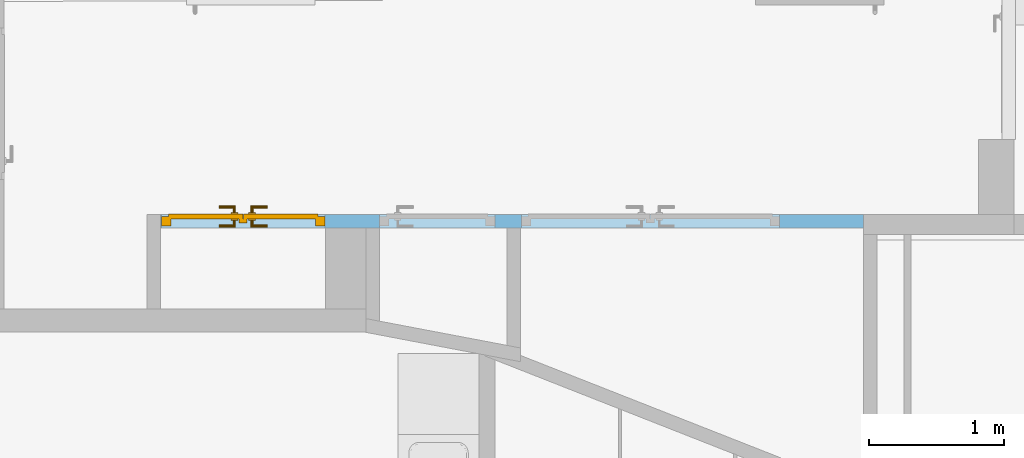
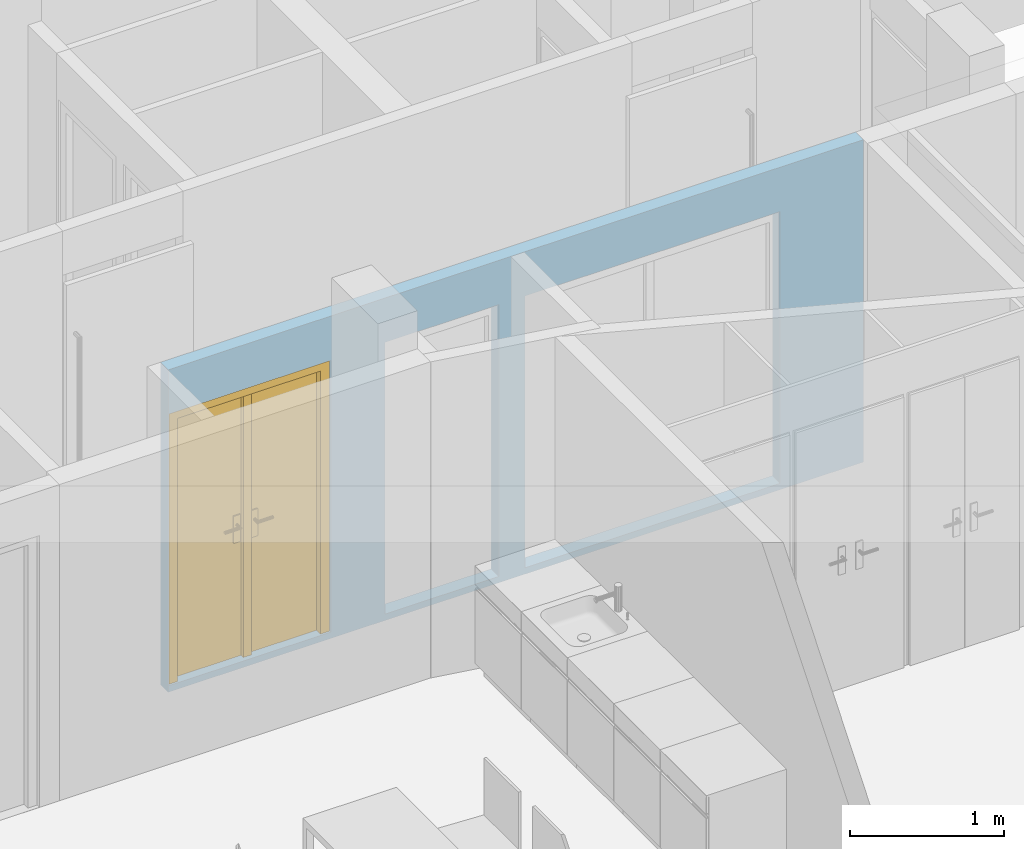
"""IFC4 building model written with IfcOpenShell, lengths in metres."""

from ifc_helpers import new_model, entity, si_unit, converted_unit, derived_unit, frame, frame_2d, origin, origin_with_axes, place, context, subcontext, project, spatial, polyline, rectangle, outline, extrude, faceted_brep, source, transform, mapped, material, layer, layer_set, layer_usage, element, fill, save


model = new_model("IFC4")

# Units and contexts
model_context = context("Model", 3, precision=1e-05, world=origin())
body_context = subcontext(model_context, "Body", "Model", "MODEL_VIEW")
ifc_project = project(units=[si_unit("LENGTHUNIT", "METRE"), si_unit("AREAUNIT", "SQUARE_METRE"), si_unit("VOLUMEUNIT", "CUBIC_METRE"), si_unit("MASSUNIT", "GRAM", prefix="KILO"), converted_unit("PLANEANGLEUNIT", "DEGREE", entity("IfcPlaneAngleMeasure", 0.0174532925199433), si_unit("PLANEANGLEUNIT", "RADIAN"), dimensions=[0, 0, 0, 0, 0, 0, 0]), derived_unit("THERMALTRANSMITTANCEUNIT", [(si_unit("POWERUNIT", "WATT"), 1), (si_unit("THERMODYNAMICTEMPERATUREUNIT", "KELVIN"), -1), (si_unit("LENGTHUNIT", "METRE"), -2)]), derived_unit("VOLUMETRICFLOWRATEUNIT", [(si_unit("LENGTHUNIT", "METRE"), 3), (converted_unit("TIMEUNIT", "hour", entity("IfcTimeMeasure", 3600.0), si_unit("TIMEUNIT", "SECOND"), dimensions=[0, 0, 1, 0, 0, 0, 0]), -1), (si_unit("LENGTHUNIT", "METRE"), -1)])], contexts=[model_context])

# Building, storeys
building_placement = place(None, origin())
building = spatial("IfcBuilding", under=ifc_project, at=building_placement, Name="HABITATGE PLURIFAMILIAR", CompositionType="ELEMENT")
storey_1_placement = place(building_placement, frame((0.0, 0.0, 3.35)))
storey_1 = spatial("IfcBuildingStorey", under=building, at=storey_1_placement, Name="PLANTA  ALTELL", CompositionType="ELEMENT", Elevation=3.35)
storey_2_placement = place(storey_1_placement, origin())
storey_2 = spatial("IfcBuildingStorey", under=storey_1, at=storey_2_placement, Name="NOU", CompositionType="PARTIAL")

# Wall, openings, door
ifc_material = material()
ifc_layer = layer(ifc_material, 0.1)
ifc_layer_set = layer_set([ifc_layer])
ifc_layer_usage = layer_usage(ifc_layer_set, "AXIS2", "POSITIVE", 0.0)
wall_placement = place(storey_2_placement, frame((409.716597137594, 24.3495914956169, -0.05), z_axis=(0.0, 0.0, 1.0), x_axis=(-1.0, 0.0, 0.0)))
wall = element("IfcWall", 1, at=wall_placement, inside=storey_2, material=ifc_layer_usage, Name="Evans PA", context=body_context, shape_type="SweptSolid", body=[
    extrude(rectangle(XDim=5.20093041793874, YDim=0.1, at=frame_2d((2.60046520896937, 0.05), x_axis=(1.0, 0.0))), origin_with_axes(), (0.0, 0.0, 1.0), 2.55),
])
opening_1_placement = place(wall_placement, frame((5.1938556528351, 0.1, 0.05), z_axis=(0.0, -1.0, 0.0), x_axis=(0.0, 0.0, 1.0)))
opening_1 = element("IfcOpeningElement", 2, at=opening_1_placement, cuts=wall, Name="Vano de puerta PA", ObjectType="Opening", context=body_context, shape_type="SweptSolid", body=[
    extrude(outline(polyline([(2.15, 1.20933157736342), (2.15, 0.0), (0.0, 0.0), (0.0, 1.20933157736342), (2.15, 1.20933157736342)])), origin_with_axes(), (0.0, 0.0, 1.0), 0.1),
])
opening_2_placement = place(wall_placement, frame((2.53158838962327, 0.1, 0.05), z_axis=(0.0, -1.0, 0.0), x_axis=(0.0, 0.0, 1.0)))
element("IfcOpeningElement", 3, at=opening_2_placement, cuts=wall, Name="Vano de puerta PA", ObjectType="Opening", context=body_context, shape_type="SweptSolid", body=[
    extrude(outline(polyline([(2.15, 1.90908991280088), (2.15, 0.0), (0.0, 0.0), (0.0, 1.90908991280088), (2.15, 1.90908991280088)])), origin_with_axes(), (0.0, 0.0, 1.0), 0.1),
])
opening_3_placement = place(wall_placement, frame((2.72701034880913, 0.0, 0.05), z_axis=(0.0, 1.0, 0.0), x_axis=(0.0, 0.0, 1.0)))
element("IfcOpeningElement", 4, at=opening_3_placement, cuts=wall, Name="Vano de puerta PA", ObjectType="Opening", context=body_context, shape_type="SweptSolid", body=[
    extrude(outline(polyline([(2.15, 0.853177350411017), (2.15, 0.0), (0.0, 0.0), (0.0, 0.853177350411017), (2.15, 0.853177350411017)])), origin_with_axes(), (0.0, 0.0, 1.0), 0.1),
])
shared_shape = source(origin_with_axes(), body_context, "Body", "Brep", [
    faceted_brep([(0.0, 0.07, 2.15), (0.0, 0.07, 0.0), (0.07, 0.07, 0.0), (0.07, 0.07, 2.15), (0.0, 0.0, 0.0), (0.0, 0.0, 2.15), (0.07, 0.0, 2.15), (0.07, 0.0, 0.0)], [[[0, 1, 2, 3]], [[4, 5, 6, 7]], [[1, 0, 5, 4]], [[2, 1, 4, 7]], [[3, 2, 7, 6]], [[0, 3, 6, 5]]], orient=[[False], [False], [False], [False], [False], [False]]),
    faceted_brep([(1.13933157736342, 0.07, 2.15), (1.13933157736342, 0.07, 0.0), (1.20933157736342, 0.07, 0.0), (1.20933157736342, 0.07, 2.15), (1.13933157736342, 0.0, 0.0), (1.13933157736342, 0.0, 2.15), (1.20933157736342, 0.0, 2.15), (1.20933157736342, 0.0, 0.0)], [[[0, 1, 2, 3]], [[4, 5, 6, 7]], [[1, 0, 5, 4]], [[2, 1, 4, 7]], [[3, 2, 7, 6]], [[0, 3, 6, 5]]], orient=[[False], [False], [False], [False], [False], [False]]),
    faceted_brep([(0.07, 0.07, 2.15), (0.07, 0.07, 2.08), (1.13933157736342, 0.07, 2.08), (1.13933157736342, 0.07, 2.15), (0.07, 0.0, 2.08), (0.07, 0.0, 2.15), (1.13933157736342, 0.0, 2.15), (1.13933157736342, 0.0, 2.08)], [[[0, 1, 2, 3]], [[4, 5, 6, 7]], [[1, 0, 5, 4]], [[2, 1, 4, 7]], [[3, 2, 7, 6]], [[0, 3, 6, 5]]], orient=[[False], [False], [False], [False], [False], [False]]),
    faceted_brep([(0.05, 0.09, 2.1), (0.05, 0.09, 0.0), (0.604165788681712, 0.09, 0.0), (0.604165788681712, 0.09, 2.1), (0.05, 0.05, 0.0), (0.05, 0.05, 2.1), (0.604165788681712, 0.05, 2.1), (0.604165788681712, 0.05, 0.0)], [[[0, 1, 2, 3]], [[4, 5, 6, 7]], [[1, 0, 5, 4]], [[2, 1, 4, 7]], [[3, 2, 7, 6]], [[0, 3, 6, 5]]], orient=[[False], [False], [False], [False], [False], [False]]),
    faceted_brep([(0.574165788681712, 0.05, 2.08), (0.574165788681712, 0.05, 0.0), (0.634165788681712, 0.05, 0.0), (0.634165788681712, 0.05, 2.08), (0.574165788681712, 0.02, 0.0), (0.574165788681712, 0.02, 2.08), (0.634165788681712, 0.02, 2.08), (0.634165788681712, 0.02, 0.0)], [[[0, 1, 2, 3]], [[4, 5, 6, 7]], [[1, 0, 5, 4]], [[2, 1, 4, 7]], [[3, 2, 7, 6]], [[0, 3, 6, 5]]], orient=[[False], [False], [False], [False], [False], [False]]),
    faceted_brep([(0.514165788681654, 0.05, 1.125), (0.514165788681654, 0.05, 0.91), (0.564165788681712, 0.05, 0.91), (0.564165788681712, 0.05, 1.125), (0.514165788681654, 0.04, 0.91), (0.514165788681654, 0.04, 1.125), (0.564165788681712, 0.04, 1.125), (0.564165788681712, 0.04, 0.91)], [[[0, 1, 2, 3]], [[4, 5, 6, 7]], [[1, 0, 5, 4]], [[2, 1, 4, 7]], [[3, 2, 7, 6]], [[0, 3, 6, 5]]], orient=[[False], [False], [False], [False], [False], [False]]),
    faceted_brep([(0.539165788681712, 0.04, 1.06), (0.534165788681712, 0.04, 1.05866025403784), (0.530505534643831, 0.04, 1.055), (0.529165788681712, 0.04, 1.05), (0.530505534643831, 0.04, 1.045), (0.534165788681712, 0.04, 1.04133974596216), (0.539165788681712, 0.04, 1.04), (0.544165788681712, 0.04, 1.04133974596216), (0.547826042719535, 0.04, 1.045), (0.549165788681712, 0.04, 1.05), (0.547826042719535, 0.04, 1.055), (0.544165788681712, 0.04, 1.05866025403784), (0.544165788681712, -0.005, 1.05866025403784), (0.539165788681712, 0.0, 1.06), (0.547826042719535, -0.00866025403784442, 1.055), (0.549165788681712, -0.01, 1.05), (0.547826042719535, -0.00866025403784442, 1.045), (0.544165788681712, -0.005, 1.04133974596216), (0.539165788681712, 0.0, 1.04), (0.534165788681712, 0.005, 1.04133974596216), (0.530505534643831, 0.00866025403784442, 1.045), (0.529165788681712, 0.01, 1.05), (0.530505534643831, 0.00866025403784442, 1.055), (0.534165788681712, 0.005, 1.05866025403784), (0.424165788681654, 0.0, 1.06), (0.424165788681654, -0.005, 1.05866025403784), (0.424165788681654, -0.00866025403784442, 1.055), (0.424165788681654, -0.01, 1.05), (0.424165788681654, -0.00866025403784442, 1.045), (0.424165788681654, -0.005, 1.04133974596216), (0.424165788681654, 0.0, 1.04), (0.424165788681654, 0.005, 1.04133974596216), (0.424165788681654, 0.00866025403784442, 1.045), (0.424165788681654, 0.01, 1.05), (0.424165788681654, 0.00866025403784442, 1.055), (0.424165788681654, 0.005, 1.05866025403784)], [[[0, 1, 2, 3, 4, 5, 6, 7, 8, 9, 10, 11]], [[0, 11, 12, 13]], [[11, 10, 14, 12]], [[10, 9, 15, 14]], [[9, 8, 16, 15]], [[8, 7, 17, 16]], [[7, 6, 18, 17]], [[6, 5, 19, 18]], [[5, 4, 20, 19]], [[4, 3, 21, 20]], [[3, 2, 22, 21]], [[2, 1, 23, 22]], [[1, 0, 13, 23]], [[24, 25, 26, 27, 28, 29, 30, 31, 32, 33, 34, 35]], [[13, 12, 25, 24]], [[12, 14, 26, 25]], [[14, 15, 27, 26]], [[15, 16, 28, 27]], [[16, 17, 29, 28]], [[17, 18, 30, 29]], [[18, 19, 31, 30]], [[19, 20, 32, 31]], [[20, 21, 33, 32]], [[21, 22, 34, 33]], [[22, 23, 35, 34]], [[23, 13, 24, 35]]], orient=[[False], [False], [False], [False], [False], [False], [False], [False], [False], [False], [False], [False], [False], [False], [False], [False], [False], [False], [False], [False], [False], [False], [False], [False], [False], [False]]),
    faceted_brep([(0.514165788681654, 0.09, 1.125), (0.564165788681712, 0.09, 1.125), (0.564165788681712, 0.09, 0.91), (0.514165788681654, 0.09, 0.91), (0.514165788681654, 0.1, 0.91), (0.564165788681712, 0.1, 0.91), (0.564165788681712, 0.1, 1.125), (0.514165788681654, 0.1, 1.125)], [[[0, 1, 2, 3]], [[4, 5, 6, 7]], [[3, 4, 7, 0]], [[2, 5, 4, 3]], [[1, 6, 5, 2]], [[0, 7, 6, 1]]], orient=[[False], [False], [False], [False], [False], [False]]),
    faceted_brep([(0.539165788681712, 0.1, 1.06), (0.544165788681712, 0.1, 1.05866025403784), (0.547826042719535, 0.1, 1.055), (0.549165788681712, 0.1, 1.05), (0.547826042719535, 0.1, 1.045), (0.544165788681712, 0.1, 1.04133974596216), (0.539165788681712, 0.1, 1.04), (0.534165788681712, 0.1, 1.04133974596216), (0.530505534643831, 0.1, 1.045), (0.529165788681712, 0.1, 1.05), (0.530505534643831, 0.1, 1.055), (0.534165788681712, 0.1, 1.05866025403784), (0.539165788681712, 0.14, 1.06), (0.544165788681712, 0.145, 1.05866025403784), (0.547826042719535, 0.148660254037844, 1.055), (0.549165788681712, 0.15, 1.05), (0.547826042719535, 0.148660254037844, 1.045), (0.544165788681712, 0.145, 1.04133974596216), (0.539165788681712, 0.14, 1.04), (0.534165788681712, 0.135, 1.04133974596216), (0.530505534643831, 0.131339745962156, 1.045), (0.529165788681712, 0.13, 1.05), (0.530505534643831, 0.131339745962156, 1.055), (0.534165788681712, 0.135, 1.05866025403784), (0.424165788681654, 0.14, 1.06), (0.424165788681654, 0.135, 1.05866025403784), (0.424165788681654, 0.131339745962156, 1.055), (0.424165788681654, 0.13, 1.05), (0.424165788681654, 0.131339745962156, 1.045), (0.424165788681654, 0.135, 1.04133974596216), (0.424165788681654, 0.14, 1.04), (0.424165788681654, 0.145, 1.04133974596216), (0.424165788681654, 0.148660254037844, 1.045), (0.424165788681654, 0.15, 1.05), (0.424165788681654, 0.148660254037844, 1.055), (0.424165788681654, 0.145, 1.05866025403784)], [[[0, 1, 2, 3, 4, 5, 6, 7, 8, 9, 10, 11]], [[0, 12, 13, 1]], [[1, 13, 14, 2]], [[2, 14, 15, 3]], [[3, 15, 16, 4]], [[4, 16, 17, 5]], [[5, 17, 18, 6]], [[6, 18, 19, 7]], [[7, 19, 20, 8]], [[8, 20, 21, 9]], [[9, 21, 22, 10]], [[10, 22, 23, 11]], [[11, 23, 12, 0]], [[24, 25, 26, 27, 28, 29, 30, 31, 32, 33, 34, 35]], [[12, 24, 35, 13]], [[13, 35, 34, 14]], [[14, 34, 33, 15]], [[15, 33, 32, 16]], [[16, 32, 31, 17]], [[17, 31, 30, 18]], [[18, 30, 29, 19]], [[19, 29, 28, 20]], [[20, 28, 27, 21]], [[21, 27, 26, 22]], [[22, 26, 25, 23]], [[23, 25, 24, 12]]], orient=[[False], [False], [False], [False], [False], [False], [False], [False], [False], [False], [False], [False], [False], [False], [False], [False], [False], [False], [False], [False], [False], [False], [False], [False], [False], [False]]),
    faceted_brep([(0.605165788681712, 0.09, 2.1), (0.605165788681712, 0.09, 0.0), (1.15933157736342, 0.09, 0.0), (1.15933157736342, 0.09, 2.1), (0.605165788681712, 0.05, 0.0), (0.605165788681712, 0.05, 2.1), (1.15933157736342, 0.05, 2.1), (1.15933157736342, 0.05, 0.0)], [[[0, 1, 2, 3]], [[4, 5, 6, 7]], [[1, 0, 5, 4]], [[2, 1, 4, 7]], [[3, 2, 7, 6]], [[0, 3, 6, 5]]], orient=[[False], [False], [False], [False], [False], [False]]),
    faceted_brep([(0.645165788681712, 0.05, 1.125), (0.645165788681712, 0.05, 0.91), (0.69516578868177, 0.05, 0.91), (0.69516578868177, 0.05, 1.125), (0.645165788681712, 0.04, 0.91), (0.645165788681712, 0.04, 1.125), (0.69516578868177, 0.04, 1.125), (0.69516578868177, 0.04, 0.91)], [[[0, 1, 2, 3]], [[4, 5, 6, 7]], [[1, 0, 5, 4]], [[2, 1, 4, 7]], [[3, 2, 7, 6]], [[0, 3, 6, 5]]], orient=[[False], [False], [False], [False], [False], [False]]),
    faceted_brep([(0.670165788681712, 0.04, 1.06), (0.665165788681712, 0.04, 1.05866025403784), (0.661505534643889, 0.04, 1.055), (0.660165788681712, 0.04, 1.05), (0.661505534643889, 0.04, 1.045), (0.665165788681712, 0.04, 1.04133974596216), (0.670165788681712, 0.04, 1.04), (0.675165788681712, 0.04, 1.04133974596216), (0.678826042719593, 0.04, 1.045), (0.680165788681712, 0.04, 1.05), (0.678826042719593, 0.04, 1.055), (0.675165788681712, 0.04, 1.05866025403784), (0.670165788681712, 0.0, 1.06), (0.665165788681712, -0.005, 1.05866025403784), (0.661505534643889, -0.00866025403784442, 1.055), (0.660165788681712, -0.01, 1.05), (0.661505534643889, -0.00866025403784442, 1.045), (0.665165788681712, -0.005, 1.04133974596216), (0.670165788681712, 0.0, 1.04), (0.675165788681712, 0.005, 1.04133974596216), (0.678826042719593, 0.00866025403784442, 1.045), (0.680165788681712, 0.01, 1.05), (0.678826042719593, 0.00866025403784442, 1.055), (0.675165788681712, 0.005, 1.05866025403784), (0.78516578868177, 0.0, 1.06), (0.78516578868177, 0.005, 1.05866025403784), (0.78516578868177, 0.00866025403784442, 1.055), (0.78516578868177, 0.01, 1.05), (0.78516578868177, 0.00866025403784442, 1.045), (0.78516578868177, 0.005, 1.04133974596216), (0.78516578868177, 0.0, 1.04), (0.78516578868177, -0.005, 1.04133974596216), (0.78516578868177, -0.00866025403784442, 1.045), (0.78516578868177, -0.01, 1.05), (0.78516578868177, -0.00866025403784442, 1.055), (0.78516578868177, -0.005, 1.05866025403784)], [[[0, 1, 2, 3, 4, 5, 6, 7, 8, 9, 10, 11]], [[0, 12, 13, 1]], [[1, 13, 14, 2]], [[2, 14, 15, 3]], [[3, 15, 16, 4]], [[4, 16, 17, 5]], [[5, 17, 18, 6]], [[6, 18, 19, 7]], [[7, 19, 20, 8]], [[8, 20, 21, 9]], [[9, 21, 22, 10]], [[10, 22, 23, 11]], [[11, 23, 12, 0]], [[24, 25, 26, 27, 28, 29, 30, 31, 32, 33, 34, 35]], [[12, 24, 35, 13]], [[13, 35, 34, 14]], [[14, 34, 33, 15]], [[15, 33, 32, 16]], [[16, 32, 31, 17]], [[17, 31, 30, 18]], [[18, 30, 29, 19]], [[19, 29, 28, 20]], [[20, 28, 27, 21]], [[21, 27, 26, 22]], [[22, 26, 25, 23]], [[23, 25, 24, 12]]], orient=[[False], [False], [False], [False], [False], [False], [False], [False], [False], [False], [False], [False], [False], [False], [False], [False], [False], [False], [False], [False], [False], [False], [False], [False], [False], [False]]),
    faceted_brep([(0.645165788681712, 0.09, 1.125), (0.69516578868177, 0.09, 1.125), (0.69516578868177, 0.09, 0.91), (0.645165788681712, 0.09, 0.91), (0.645165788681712, 0.1, 0.91), (0.69516578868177, 0.1, 0.91), (0.69516578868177, 0.1, 1.125), (0.645165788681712, 0.1, 1.125)], [[[0, 1, 2, 3]], [[4, 5, 6, 7]], [[3, 4, 7, 0]], [[2, 5, 4, 3]], [[1, 6, 5, 2]], [[0, 7, 6, 1]]], orient=[[False], [False], [False], [False], [False], [False]]),
    faceted_brep([(0.670165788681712, 0.1, 1.06), (0.675165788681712, 0.1, 1.05866025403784), (0.678826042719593, 0.1, 1.055), (0.680165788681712, 0.1, 1.05), (0.678826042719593, 0.1, 1.045), (0.675165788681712, 0.1, 1.04133974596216), (0.670165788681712, 0.1, 1.04), (0.665165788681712, 0.1, 1.04133974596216), (0.661505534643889, 0.1, 1.045), (0.660165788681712, 0.1, 1.05), (0.661505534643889, 0.1, 1.055), (0.665165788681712, 0.1, 1.05866025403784), (0.665165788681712, 0.145, 1.05866025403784), (0.670165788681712, 0.14, 1.06), (0.661505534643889, 0.148660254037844, 1.055), (0.660165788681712, 0.15, 1.05), (0.661505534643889, 0.148660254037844, 1.045), (0.665165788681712, 0.145, 1.04133974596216), (0.670165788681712, 0.14, 1.04), (0.675165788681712, 0.135, 1.04133974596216), (0.678826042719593, 0.131339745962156, 1.045), (0.680165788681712, 0.13, 1.05), (0.678826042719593, 0.131339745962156, 1.055), (0.675165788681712, 0.135, 1.05866025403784), (0.78516578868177, 0.14, 1.06), (0.78516578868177, 0.145, 1.05866025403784), (0.78516578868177, 0.148660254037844, 1.055), (0.78516578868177, 0.15, 1.05), (0.78516578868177, 0.148660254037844, 1.045), (0.78516578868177, 0.145, 1.04133974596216), (0.78516578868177, 0.14, 1.04), (0.78516578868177, 0.135, 1.04133974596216), (0.78516578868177, 0.131339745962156, 1.045), (0.78516578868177, 0.13, 1.05), (0.78516578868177, 0.131339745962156, 1.055), (0.78516578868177, 0.135, 1.05866025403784)], [[[0, 1, 2, 3, 4, 5, 6, 7, 8, 9, 10, 11]], [[0, 11, 12, 13]], [[11, 10, 14, 12]], [[10, 9, 15, 14]], [[9, 8, 16, 15]], [[8, 7, 17, 16]], [[7, 6, 18, 17]], [[6, 5, 19, 18]], [[5, 4, 20, 19]], [[4, 3, 21, 20]], [[3, 2, 22, 21]], [[2, 1, 23, 22]], [[1, 0, 13, 23]], [[24, 25, 26, 27, 28, 29, 30, 31, 32, 33, 34, 35]], [[13, 12, 25, 24]], [[12, 14, 26, 25]], [[14, 15, 27, 26]], [[15, 16, 28, 27]], [[16, 17, 29, 28]], [[17, 18, 30, 29]], [[18, 19, 31, 30]], [[19, 20, 32, 31]], [[20, 21, 33, 32]], [[21, 22, 34, 33]], [[22, 23, 35, 34]], [[23, 13, 24, 35]]], orient=[[False], [False], [False], [False], [False], [False], [False], [False], [False], [False], [False], [False], [False], [False], [False], [False], [False], [False], [False], [False], [False], [False], [False], [False], [False], [False]]),
])
door_placement = place(opening_1_placement, frame((0.0, 0.0, 0.015), z_axis=(1.0, 0.0, 0.0), x_axis=(0.0, 1.0, 0.0)))
door = element("IfcDoor", 5, at=door_placement, inside=storey_2, Name="Porta PA", OperationType="USERDEFINED", OverallHeight=2.15, OverallWidth=1.20933, PredefinedType="DOOR", context=body_context, shape_type="MappedRepresentation", body=[
    mapped(shared_shape, transform((0.0, 0.0, 0.0), x_axis=(1.0, 0.0, 0.0), y_axis=(0.0, 1.0, 0.0), z_axis=(0.0, 0.0, 1.0), scale=1.0)),
])
fill(opening_1, door)

save(model, "model.ifc")
